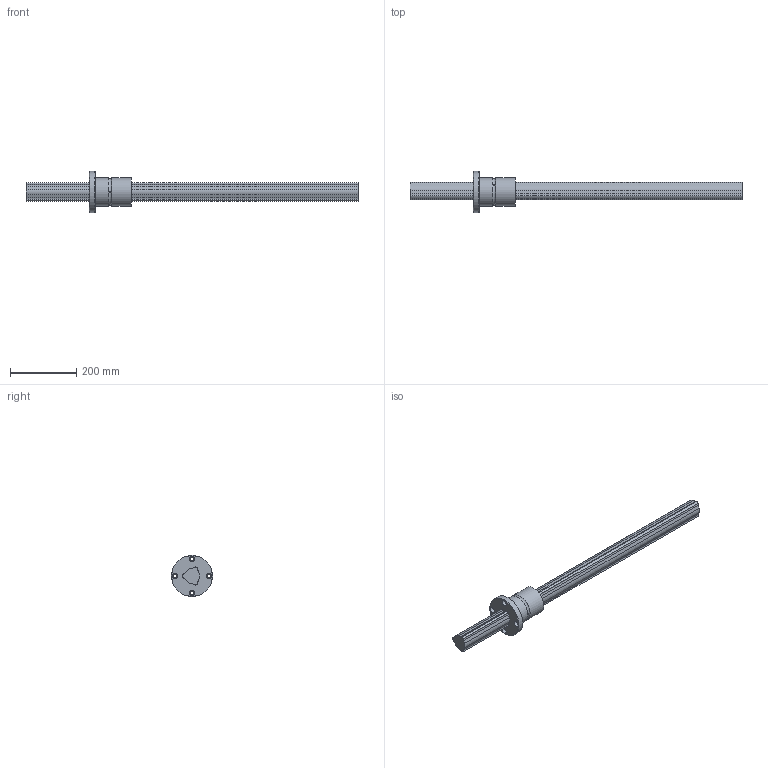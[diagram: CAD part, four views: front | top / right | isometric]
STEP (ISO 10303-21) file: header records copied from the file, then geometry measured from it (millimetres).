
FILE_DESCRIPTION(/* description */ ('STEP AP214'),/* implementation_level */ '2;1');
FILE_NAME(/* name */ 'LBF60+1000L(1000190.50)',/* time_stamp */ '2024-09-04T13:02:55+02:00',/* author */ ('License CC BY-ND 4.0'),/* organization */ ('CADENAS'),/* preprocessor_version */ 'ST-DEVELOPER v19.3',/* originating_system */ 'PARTsolutions',/* authorisation */ ' ');
FILE_SCHEMA (('AUTOMOTIVE_DESIGN {1 0 10303 214 3 1 1}'));
Length unit declared in the file: millimetre
Products named in the file (3): LBF60+1000L(1000190.50); LBF6011000 Spline Shaft; LBF60 Nut
Assembly tree (2 placements, depth 2):
  LBF60+1000L(1000190.50)
    LBF6011000 Spline Shaft
    LBF60 Nut
Bounding box: 1000 x 124 x 124 mm (x, y, z)
Volume: 2509248.4 mm3; surface area: 260052.7 mm2
Topology: 2 solids, 2 shells, 66 faces, 164 edges, 110 vertices
Faces by surface type: cylinder 38, plane 24, torus 2, cone 2
Full cylindrical faces by diameter (mm): 4 x3, 11 x4, 17.5 x4, 85 x2, 124 x1
Entity records: 1969 total; most frequent: DIRECTION 350, CARTESIAN_POINT 344, ORIENTED_EDGE 278, AXIS2_PLACEMENT_3D 145, EDGE_CURVE 139, VERTEX_POINT 103, EDGE_LOOP 102, FACE_BOUND 102
